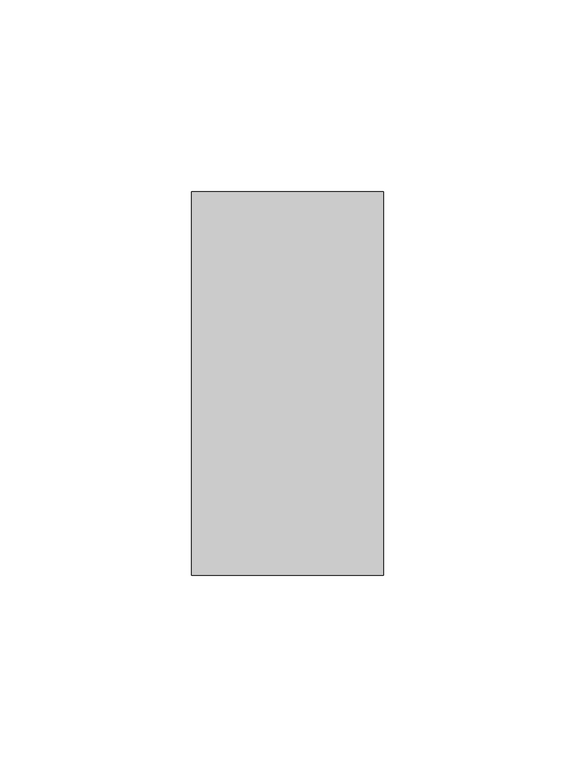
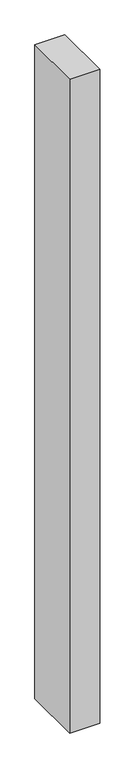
"""IFC4 building model written with IfcOpenShell, lengths in millimetres: member geometry, Прямоугольный импост : 50х100."""

from ifc_helpers import new_model, si_unit, frame, origin, place, context, project, spatial, polyline, outline, extrude, source, transform, mapped, element, save


def member_8f93678d(model_context):
    return source(origin(), model_context, "Body", "SweptSolid", [
        extrude(outline(polyline([(0.0, 50.0), (0.0, -50.0), (-50.0, -50.0), (-50.0, 50.0), (0.0, 50.0)])), frame((0.0, 0.0, -1150.0), z_axis=(0.0, 0.0, 1.0), x_axis=(1.0, 0.0, 0.0)), (0.0, 0.0, 1.0), 1150.0),
    ])


if __name__ == "__main__":
    model = new_model("IFC4")
    model_context = context("Model", 3, world=origin())
    ifc_project = project(units=[si_unit("LENGTHUNIT", "METRE", prefix="MILLI")], contexts=[model_context])
    site = spatial("IfcSite", under=ifc_project)
    building = spatial("IfcBuilding", under=site)
    placement = place(None, origin())
    member_shape = member_8f93678d(model_context)
    element("IfcMember", 1, ObjectType="Прямоугольный импост : 50х100", at=placement, inside=building, context=model_context, shape_type="MappedRepresentation", body=[
        mapped(member_shape, transform((0.0, 0.0, 0.0), x_axis=(1.0, 0.0, 0.0), y_axis=(0.0, 1.0, 0.0), z_axis=(0.0, 0.0, 1.0))),
    ])
    save(model, "model.ifc")
